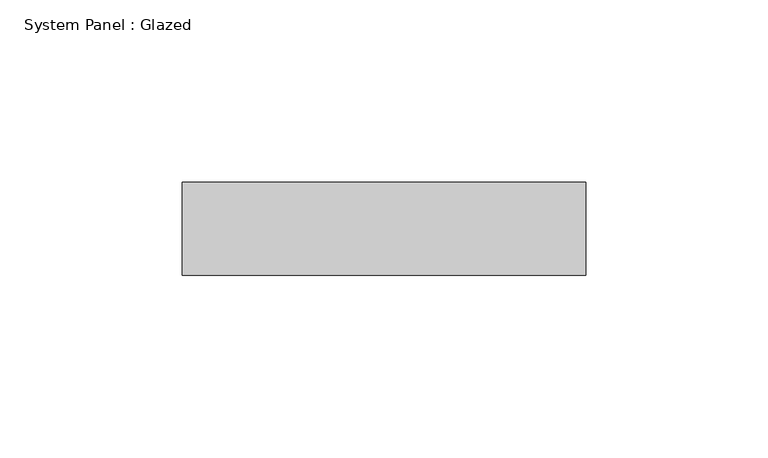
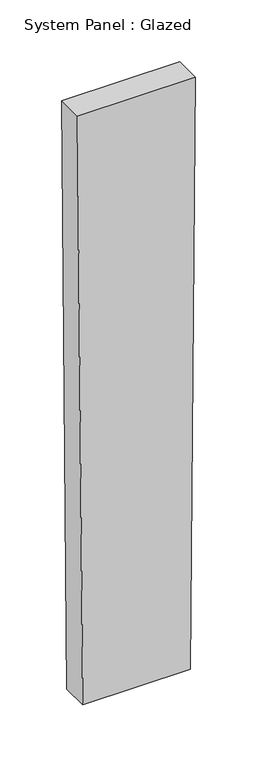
"""IFC4 building model written with IfcOpenShell, lengths in millimetres: plate geometry, System Panel : Glazed."""

from ifc_helpers import new_model, si_unit, frame, origin, place, context, project, spatial, polyline, outline, extrude, source, transform, mapped, element, save


def system_panel_glazed_a0f8dd0e(model_context):
    return source(origin(), model_context, "Body", "SweptSolid", [
        extrude(outline(polyline([(0.0, -50.3329524), (0.0, 50.3329524), (584.1785544, 55.2332089), (584.1785544, -55.2332089), (0.0, -50.3329524)])), frame((0.0, -44.45, 0.0), z_axis=(0.0, 1.0, 0.0), x_axis=(0.0, 0.0, 1.0)), (0.0, 0.0, 1.0), 25.4),
    ])


if __name__ == "__main__":
    model = new_model("IFC4")
    model_context = context("Model", 3, world=origin())
    ifc_project = project(units=[si_unit("LENGTHUNIT", "METRE", prefix="MILLI")], contexts=[model_context])
    site = spatial("IfcSite", under=ifc_project)
    building = spatial("IfcBuilding", under=site)
    placement = place(None, origin())
    system_panel_glazed_shape = system_panel_glazed_a0f8dd0e(model_context)
    element("IfcPlate", 1, ObjectType="System Panel : Glazed", at=placement, inside=building, context=model_context, shape_type="MappedRepresentation", body=[
        mapped(system_panel_glazed_shape, transform((0.0, 0.0, 0.0), x_axis=(1.0, 0.0, 0.0), y_axis=(0.0, 1.0, 0.0), z_axis=(0.0, 0.0, 1.0))),
    ])
    save(model, "model.ifc")
